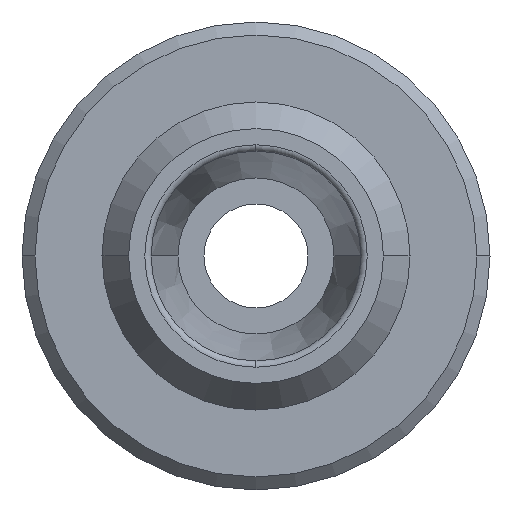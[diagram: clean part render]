
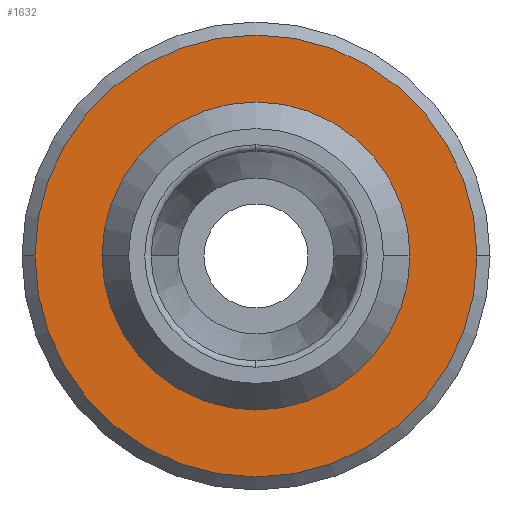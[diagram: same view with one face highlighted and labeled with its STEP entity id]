
A CAD part, left-side view. The second image highlights one B-rep face of the part: STEP entity #1632.
In plain terms, the highlighted planar face has unit normal (-1, 0, 0) as drawn and (0, 0, 1) by its records, which use the part's own axes.
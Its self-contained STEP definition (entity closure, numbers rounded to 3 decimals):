
#141=CARTESIAN_POINT('',(-8.5,0.,25.0));
#142=VERTEX_POINT('',#141);
#151=CARTESIAN_POINT('',(8.5,0.0,25.0));
#152=VERTEX_POINT('',#151);
#153=CARTESIAN_POINT('',(0.0,0.0,25.0));
#154=DIRECTION('',(0.0,0.0,-1.0));
#155=DIRECTION('',(-1.0,0.0,0.0));
#156=AXIS2_PLACEMENT_3D('',#153,#154,#155);
#157=CIRCLE('',#156,8.5);
#158=EDGE_CURVE('',#142,#152,#157,.T.);
#836=CARTESIAN_POINT('',(0.,-5.8,25.0));
#837=VERTEX_POINT('',#836);
#863=CARTESIAN_POINT('',(0.,5.8,25.0));
#864=VERTEX_POINT('',#863);
#872=CARTESIAN_POINT('',(0.,0.,25.0));
#873=DIRECTION('',(0.0,0.0,1.0));
#874=DIRECTION('',(-1.0,0.0,0.0));
#875=AXIS2_PLACEMENT_3D('',#872,#873,#874);
#876=CIRCLE('',#875,5.8);
#877=EDGE_CURVE('',#864,#837,#876,.T.);
#1558=CARTESIAN_POINT('',(5.8,0.,25.));
#1559=VERTEX_POINT('',#1558);
#1560=CARTESIAN_POINT('',(0.,0.,25.0));
#1561=DIRECTION('',(0.0,0.0,1.0));
#1562=DIRECTION('',(-1.0,0.0,0.0));
#1563=AXIS2_PLACEMENT_3D('',#1560,#1561,#1562);
#1564=CIRCLE('',#1563,5.8);
#1565=EDGE_CURVE('',#837,#1559,#1564,.T.);
#1567=CARTESIAN_POINT('',(0.,0.,25.0));
#1568=DIRECTION('',(0.0,0.0,1.0));
#1569=DIRECTION('',(-1.0,0.0,0.0));
#1570=AXIS2_PLACEMENT_3D('',#1567,#1568,#1569);
#1571=CIRCLE('',#1570,5.8);
#1572=EDGE_CURVE('',#1559,#864,#1571,.T.);
#1612=CARTESIAN_POINT('',(0.818,0.,25.0));
#1613=DIRECTION('',(0.0,0.0,1.0));
#1614=DIRECTION('',(1.0,0.0,0.0));
#1615=AXIS2_PLACEMENT_3D('',#1612,#1613,#1614);
#1616=PLANE('',#1615);
#1617=CARTESIAN_POINT('',(0.0,0.0,25.0));
#1618=DIRECTION('',(0.0,0.0,-1.0));
#1619=DIRECTION('',(-1.0,0.0,0.0));
#1620=AXIS2_PLACEMENT_3D('',#1617,#1618,#1619);
#1621=CIRCLE('',#1620,8.5);
#1622=EDGE_CURVE('',#152,#142,#1621,.T.);
#1623=ORIENTED_EDGE('',*,*,#1622,.F.);
#1624=ORIENTED_EDGE('',*,*,#158,.F.);
#1625=EDGE_LOOP('',(#1623,#1624));
#1626=FACE_OUTER_BOUND('',#1625,.T.);
#1627=ORIENTED_EDGE('',*,*,#1572,.F.);
#1628=ORIENTED_EDGE('',*,*,#1565,.F.);
#1629=ORIENTED_EDGE('',*,*,#877,.F.);
#1630=EDGE_LOOP('',(#1627,#1628,#1629));
#1631=FACE_BOUND('',#1630,.T.);
#1632=ADVANCED_FACE('',(#1626,#1631),#1616,.T.);
